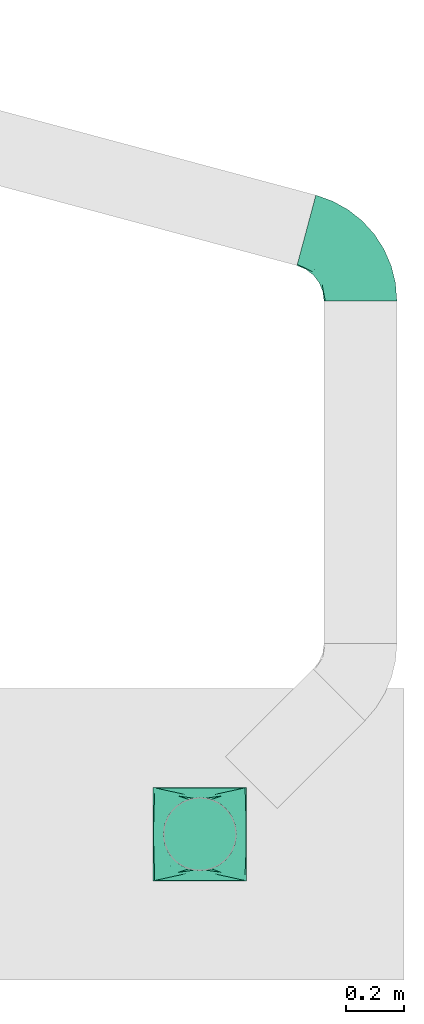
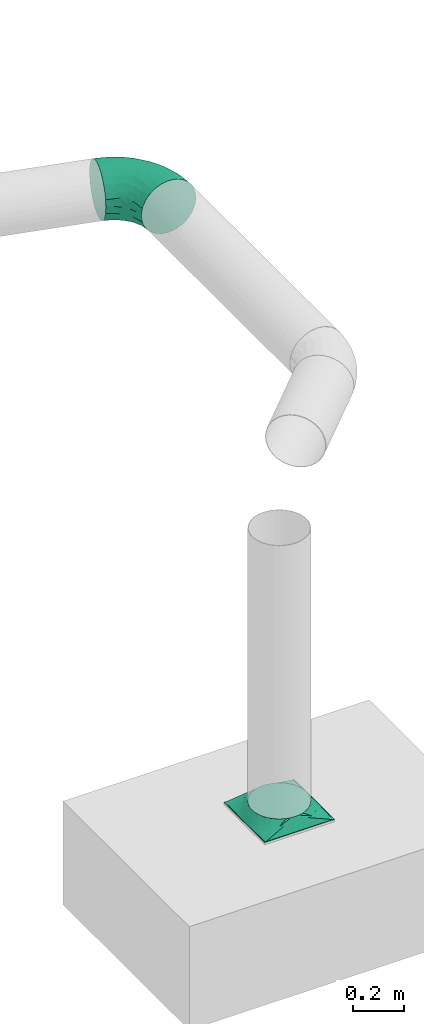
# One storey, part 2 of 3: 2 flow fittings.
"""IFC2X3 building model written with IfcOpenShell, lengths in millimetres."""

import ifcopenshell
import ifcopenshell.guid

model = None  # the IFC model being written
_history = None  # IfcOwnerHistory: only IFC2X3 demands one
_inside = {}  # id of a spatial element -> (the spatial element, [elements in it])
_under = {}  # id of a project, library or spatial element -> (it, [spatial elements below it])
_declared = {}  # id of a project -> (the project, [libraries it declares])
_typed = {}  # id of a type object -> (the type object, [elements of that type])
_made_of = {}  # id of a material, layer set ... -> (it, [elements and type objects made of it])


def new_model(schema):
    """Start an empty IFC model of exactly this schema.

    Asked for "IFC4X3", IfcOpenShell would pick the latest addendum, in which some entities
    have other attributes; the version numbers below select the first issue.
    IFC2X3 requires an IfcOwnerHistory on every rooted entity: one is made here for all.
    """
    global model, _history
    if schema == "IFC4X3":
        model = ifcopenshell.file(schema_version=(4, 3, 0, 0))
    else:
        model = ifcopenshell.file(schema=schema)
    _inside.clear()
    _under.clear()
    _declared.clear()
    _typed.clear()
    _made_of.clear()
    _history = None
    if model.schema == "IFC2X3":
        org = make("IfcOrganization", Name="unknown")
        user = make(
            "IfcPersonAndOrganization",
            ThePerson=make("IfcPerson", FamilyName="unknown"),
            TheOrganization=org,
        )
        app = make(
            "IfcApplication",
            ApplicationDeveloper=org,
            Version="unknown",
            ApplicationFullName="unknown",
            ApplicationIdentifier="unknown",
        )
        _history = make(
            "IfcOwnerHistory",
            OwningUser=user,
            OwningApplication=app,
            ChangeAction="ADDED",
            CreationDate=0,
        )
    return model


def make(cls, **values):
    """One entity of the class cls with the attributes given. An attribute that is None is left unset."""
    return model.create_entity(
        cls, **{name: value for name, value in values.items() if value is not None}
    )


def entity(cls, *values):
    """Any entity or typed value of the class cls, its attributes in the order of the schema. None: left unset."""
    e = model.create_entity(cls)
    for i, value in enumerate(values):
        if value is not None:
            e[i] = value
    return e


def rooted(cls, **values):
    """An entity with a GlobalId (a new one), such as an element, a storey or a relation."""
    return make(cls, GlobalId=ifcopenshell.guid.new(), OwnerHistory=_history, **values)


def si_unit(unit_type, name, prefix=None):
    """IfcSIUnit, for example si_unit("LENGTHUNIT", "METRE", prefix="MILLI")."""
    return make("IfcSIUnit", UnitType=unit_type, Prefix=prefix, Name=name)


def converted_unit(unit_type, name, factor, base, dimensions=None, offset=None):
    """IfcConversionBasedUnit, such as the inch: factor (a typed value) times the base unit."""
    return make(
        "IfcConversionBasedUnit"
        if offset is None
        else "IfcConversionBasedUnitWithOffset",
        ConversionOffset=offset,
        Dimensions=None
        if dimensions is None
        else entity("IfcDimensionalExponents", *dimensions),
        UnitType=unit_type,
        Name=name,
        ConversionFactor=make(
            "IfcMeasureWithUnit", ValueComponent=factor, UnitComponent=base
        ),
    )


def derived_unit(unit_type, elements):
    """IfcDerivedUnit: a product of units, each with its exponent."""
    return make(
        "IfcDerivedUnit",
        Elements=[
            make("IfcDerivedUnitElement", Unit=unit, Exponent=power)
            for unit, power in elements
        ],
        UnitType=unit_type,
    )


def assignment(units):
    """IfcUnitAssignment: the units of a project."""
    return None if units is None else make("IfcUnitAssignment", Units=units)


def point(xyz):
    """IfcCartesianPoint."""
    return None if xyz is None else make("IfcCartesianPoint", Coordinates=xyz)


def direction(xyz):
    """IfcDirection."""
    return None if xyz is None else make("IfcDirection", DirectionRatios=xyz)


def frame(location, z_axis=None, x_axis=None):
    """IfcAxis2Placement3D, a coordinate frame: its origin and axes. An axis left out is left unset."""
    return make(
        "IfcAxis2Placement3D",
        Location=point(location),
        Axis=direction(z_axis),
        RefDirection=direction(x_axis),
    )


def origin_with_axes():
    """The frame at (0, 0, 0) with the z axis (0, 0, 1) and the x axis (1, 0, 0) written out."""
    return frame((0.0, 0.0, 0.0), z_axis=(0.0, 0.0, 1.0), x_axis=(1.0, 0.0, 0.0))


def place(relative_to, where):
    """IfcLocalPlacement: puts the frame where relative to a parent placement (None: the world)."""
    return make(
        "IfcLocalPlacement", PlacementRelTo=relative_to, RelativePlacement=where
    )


def context(
    kind, dimensions, precision=None, world=None, true_north=None, identifier=None
):
    """IfcGeometricRepresentationContext, for example the 3D "Model" context."""
    return make(
        "IfcGeometricRepresentationContext",
        ContextIdentifier=identifier,
        ContextType=kind,
        CoordinateSpaceDimension=dimensions,
        Precision=precision,
        WorldCoordinateSystem=world,
        TrueNorth=true_north,
    )


def subcontext(parent, identifier, kind, view, scale=None):
    """IfcGeometricRepresentationSubContext, for example "Body" below "Model"."""
    return make(
        "IfcGeometricRepresentationSubContext",
        ContextIdentifier=identifier,
        ContextType=kind,
        ParentContext=parent,
        TargetScale=scale,
        TargetView=view,
    )


def project(units=None, contexts=None):
    """IfcProject with its units and contexts."""
    return rooted(
        "IfcProject",
        Name="project",
        RepresentationContexts=contexts,
        UnitsInContext=assignment(units),
    )


def spatial(cls, under=None, at=None, **own):
    """A site, building, storey or space (cls), placed at a placement, below another one or the project."""
    s = rooted(cls, ObjectPlacement=at, **own)
    if under is not None:
        _under.setdefault(under.id(), (under, []))[1].append(s)
    return s


def faces_of(points, faces, orient=None, outer=None):
    """IfcFace entities. A face is a list of loops; a loop is a list of indices into points, from 0.

    orient and outer hold one flag for each loop. By default every Orientation is true, the
    first loop of a face is its IfcFaceOuterBound and the others are IfcFaceBound.
    """
    made = []
    for i, loops in enumerate(faces):
        bounds = []
        for j, loop in enumerate(loops):
            is_outer = j == 0 if outer is None else outer[i][j]
            bounds.append(
                make(
                    "IfcFaceOuterBound" if is_outer else "IfcFaceBound",
                    Bound=make("IfcPolyLoop", Polygon=[points[k] for k in loop]),
                    Orientation=True if orient is None else orient[i][j],
                )
            )
        made.append(make("IfcFace", Bounds=bounds))
    return made


def open_shell(faces, orient=None, outer=None):
    """The faces of one IfcOpenShell. surface_model builds it on its shared points."""
    return ("IfcOpenShell", faces, orient, outer)


def surface_model(cls, points, shells):
    """IfcFaceBasedSurfaceModel or IfcShellBasedSurfaceModel (cls): surfaces that need not close."""
    shared = [point(p) for p in points]
    made = [make(c, CfsFaces=faces_of(shared, fs, o, b)) for c, fs, o, b in shells]
    if cls == "IfcFaceBasedSurfaceModel":
        return make(cls, FbsmFaces=made)
    return make(cls, SbsmBoundary=made)


def shape(context_of_items, identifier, shape_type, items):
    """IfcShapeRepresentation: the items that make up one representation, for example the "Body"."""
    return make(
        "IfcShapeRepresentation",
        ContextOfItems=context_of_items,
        RepresentationIdentifier=identifier,
        RepresentationType=shape_type,
        Items=items,
    )


def source(mapping_origin, context_of_items, identifier, shape_type, items):
    """IfcRepresentationMap: a shape defined once, which mapped items show again and again."""
    return make(
        "IfcRepresentationMap",
        MappingOrigin=mapping_origin,
        MappedRepresentation=shape(context_of_items, identifier, shape_type, items),
    )


def transform(
    local_origin,
    x_axis=None,
    y_axis=None,
    z_axis=None,
    scale=None,
    scale2=None,
    scale3=None,
    uniform=True,
):
    """IfcCartesianTransformationOperator3D, or its non-uniform kind. x_axis, y_axis, z_axis: its Axis1, 2, 3."""
    if uniform:
        return make(
            "IfcCartesianTransformationOperator3D",
            Axis1=direction(x_axis),
            Axis2=direction(y_axis),
            LocalOrigin=point(local_origin),
            Scale=scale,
            Axis3=direction(z_axis),
        )
    return make(
        "IfcCartesianTransformationOperator3DnonUniform",
        Axis1=direction(x_axis),
        Axis2=direction(y_axis),
        LocalOrigin=point(local_origin),
        Scale=scale,
        Axis3=direction(z_axis),
        Scale2=scale2,
        Scale3=scale3,
    )


def mapped(mapping_source, mapping_target):
    """IfcMappedItem: shows the shape of a source again, moved by a transform."""
    return make(
        "IfcMappedItem", MappingSource=mapping_source, MappingTarget=mapping_target
    )


def made_of(thing, what):
    """Note that an element or type object is made of a material, layer set ...; save() writes the relation."""
    if what is not None:
        _made_of.setdefault(what.id(), (what, []))[1].append(thing)
    return thing


def type_object(cls, material=None, **own):
    """A type object (cls), such as IfcWallType, which elements share."""
    return made_of(rooted(cls, **own), material)


def element(
    cls,
    number,
    at=None,
    inside=None,
    cuts=None,
    type_object=None,
    material=None,
    context=None,
    identifier="Body",
    shape_type=None,
    held_by="IfcProductDefinitionShape",
    body=None,
    shapes=None,
    **own,
):
    """One element of the class cls, such as IfcWall. Its Tag is "e" and its number.

    at: its placement. inside: the storey or other place that contains it. cuts: it is an
    opening in that element (IfcRelVoidsElement). A single representation is given by context,
    identifier, shape_type and body (its items); several are given by shapes. held_by: the class
    of the entity that holds the representations. save() writes the other relations.
    """
    e = rooted(cls, Tag="e%d" % number, ObjectPlacement=at, **own)
    if body is not None:
        shapes = [shape(context, identifier, shape_type, body)]
    if shapes is not None:
        e.Representation = make(held_by, Representations=shapes)
    if inside is not None:
        _inside.setdefault(inside.id(), (inside, []))[1].append(e)
    if cuts is not None:
        rooted(
            "IfcRelVoidsElement", RelatingBuildingElement=cuts, RelatedOpeningElement=e
        )
    if type_object is not None:
        _typed.setdefault(type_object.id(), (type_object, []))[1].append(e)
    return made_of(e, material)


def aggregate(whole, parts):
    """IfcRelAggregates: a whole, such as a stair, and the parts it consists of."""
    return rooted("IfcRelAggregates", RelatingObject=whole, RelatedObjects=parts)


def save(model, path):
    """Write the relations noted so far, then the file.

    IfcRelAggregates (storeys below a building ...), IfcRelContainedInSpatialStructure (elements
    in a storey), IfcRelDefinesByType, IfcRelAssociatesMaterial and IfcRelDeclares: one each for
    every whole, place, type object, material and project.
    """
    for whole, parts in _under.values():
        aggregate(whole, parts)
    for where, things in _inside.values():
        rooted(
            "IfcRelContainedInSpatialStructure",
            RelatedElements=things,
            RelatingStructure=where,
        )
    for kind, things in _typed.values():
        rooted("IfcRelDefinesByType", RelatedObjects=things, RelatingType=kind)
    for what, things in _made_of.values():
        rooted("IfcRelAssociatesMaterial", RelatedObjects=things, RelatingMaterial=what)
    for by, libraries in _declared.values():
        rooted("IfcRelDeclares", RelatingContext=by, RelatedDefinitions=libraries)
    model.write(path)


model = new_model("IFC2X3")

# Units and contexts
model_context = context("Model", 3, precision=0.01, world=frame((0.0, 4.29681676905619e-09, 0.0)), true_north=direction((4.01073788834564e-13, 1.0)))
plan_context = context("Plan", 3, precision=0.01, world=frame((0.0, 4.29681676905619e-09, 0.0)), true_north=direction((4.01073788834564e-13, 1.0)))
body_context = subcontext(model_context, "Body", "Model", "MODEL_VIEW")
ifc_project = project(units=[converted_unit("PLANEANGLEUNIT", "DEGREE", entity("IfcPositiveLengthMeasure", 0.0174532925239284), si_unit("PLANEANGLEUNIT", "RADIAN"), dimensions=[0, 0, 0, 0, 0, 0, 0]), si_unit("AREAUNIT", "SQUARE_METRE"), si_unit("LENGTHUNIT", "METRE", prefix="MILLI"), si_unit("MASSUNIT", "GRAM", prefix="KILO"), si_unit("POWERUNIT", "WATT"), si_unit("PRESSUREUNIT", "PASCAL", prefix="KILO"), si_unit("FORCEUNIT", "NEWTON", prefix="KILO"), si_unit("ELECTRICVOLTAGEUNIT", "VOLT"), si_unit("ELECTRICCURRENTUNIT", "AMPERE"), si_unit("THERMODYNAMICTEMPERATUREUNIT", "DEGREE_CELSIUS"), si_unit("TIMEUNIT", "SECOND"), si_unit("VOLUMEUNIT", "CUBIC_METRE"), derived_unit("LINEARVELOCITYUNIT", [(si_unit("LENGTHUNIT", "METRE"), 1), (si_unit("TIMEUNIT", "SECOND"), -1)]), derived_unit("VOLUMETRICFLOWRATEUNIT", [(si_unit("VOLUMEUNIT", "CUBIC_METRE"), 1), (si_unit("TIMEUNIT", "SECOND"), -1)]), derived_unit("THERMALTRANSMITTANCEUNIT", [(si_unit("POWERUNIT", "WATT"), 1), (si_unit("THERMODYNAMICTEMPERATUREUNIT", "KELVIN"), -1), (si_unit("AREAUNIT", "SQUARE_METRE"), -1)]), derived_unit("SOUNDPRESSUREUNIT", [(si_unit("PRESSUREUNIT", "PASCAL"), 1)])], contexts=[model_context, plan_context])

# Site, building, storey
site_placement = place(None, frame((0.0, -4.29681676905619e-09, 0.0), z_axis=(0.0, 0.0, 1.0), x_axis=(1.0, 0.0, 0.0)))
site = spatial("IfcSite", under=ifc_project, at=site_placement, CompositionType="ELEMENT")
building_placement = place(site_placement, frame((0.0, 4.29681676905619e-09, 0.0), z_axis=(0.0, 0.0, 1.0), x_axis=(1.0, 0.0, 0.0)))
building = spatial("IfcBuilding", under=site, at=building_placement, Name="mc-building", CompositionType="ELEMENT")
storey_placement = place(building_placement, frame((0.0, 0.0, 210200.0), z_axis=(0.0, 0.0, 1.0), x_axis=(1.0, 0.0, 0.0)))
storey = spatial("IfcBuildingStorey", under=building, at=storey_placement, Name="Nivå F -0,7m", CompositionType="ELEMENT", Elevation=210200.0)

# Flow fittings
duct_fitting_type_1 = type_object("IfcDuctFittingType", Name="magicirc_elbow_full_radius_001", PredefinedType="BEND")
shared_shape_1 = source(origin_with_axes(), body_context, "Body", "SurfaceModel", [
    surface_model("IfcShellBasedSurfaceModel", [(-191.83175, 62.5, -108.25318), (-191.83175, 32.35238, -120.74073), (-191.83175, 0.0, -125.0), (-191.83175, -120.74073, 32.35238), (-191.83175, 120.74073, -32.35238), (-191.83175, 108.25318, -62.5), (-191.83175, 88.38835, -88.38835), (-191.83175, -108.25318, -62.5), (-191.83175, -62.5, -108.25318), (-191.83175, -88.38835, -88.38835), (-191.83175, -32.35238, -120.74073), (-191.83175, -125.0, 0.0), (-191.83175, -120.74073, -32.35238), (-191.83175, 120.74073, 32.35238), (-191.83175, 108.25318, 62.5), (-191.83175, 88.38835, 88.38835), (-191.83175, 62.5, 108.25318), (-191.83175, 32.35238, 120.74073), (-191.83175, -88.38835, 88.38835), (-191.83175, -62.5, 108.25318), (-191.83175, -108.25318, 62.5), (-191.83175, -32.35238, 120.74073), (-191.83175, 0.0, 125.0), (-191.83175, 125.0, 0.0), (49.64971, 185.29523, -125.0), (18.39971, 193.66865, -120.74073), (-10.72066, 201.47142, -108.25318), (135.0263, 162.41865, -88.38835), (-54.91483, 213.31322, -62.5), (-66.97688, 216.54523, -32.35238), (-35.72688, 208.17183, -88.38835), (154.21424, 157.27726, -62.5), (80.89971, 176.92183, -120.74073), (110.02007, 169.11906, -108.25318), (166.2763, 154.04523, -32.35238), (166.2763, 154.04523, 32.35238), (170.39044, 152.94286, 0.0), (-66.97688, 216.54523, 32.35238), (-10.72066, 201.47142, 108.25318), (-54.91483, 213.31322, 62.5), (-35.72688, 208.17183, 88.38835), (18.39971, 193.66865, 120.74073), (154.21424, 157.27726, 62.5), (110.02007, 169.11906, 108.25318), (135.0263, 162.41865, 88.38835), (49.64971, 185.29523, 125.0), (80.89971, 176.92183, 120.74073), (-71.09102, 217.64762, 0.0), (81.62908, 109.34463, 110.9827), (-130.74594, -119.99125, 0.0), (81.86728, -6.34711, 0.0), (58.4126, -23.41433, 32.70799), (36.45379, -47.5075, 0.0), (-132.92328, -114.12885, 38.68527), (-145.97586, 99.99668, 83.36167), (-158.48315, 73.90616, 103.03266), (-49.15567, -92.33877, 31.82641), (8.96131, -63.86611, 24.38359), (-42.04341, -77.85658, 58.52436), (80.80596, 16.46227, 61.21257), (100.57391, 26.93919, 41.88619), (-143.476, -100.40934, 69.75003), (-128.1365, -77.86483, 92.57374), (-141.82382, -51.1731, 112.10389), (-148.12608, 44.79456, 118.36222), (-134.38741, 13.05132, 124.84677), (-58.80804, 166.88289, 83.36167), (-90.5012, -104.96809, 37.79895), (-71.29195, -105.0988, 0.0), (35.8772, 80.65373, 120.3499), (35.36531, 48.40769, 112.85839), (65.00076, 57.28254, 102.81191), (-146.62026, -20.10475, 122.7012), (39.07523, 22.29459, 100.52428), (-9.96776, -19.10824, 100.15116), (21.24305, -17.08337, 84.98636), (-43.46979, -38.90281, 100.17146), (-78.92672, -41.69481, 108.08911), (-58.25186, -61.11344, 88.19814), (-70.86446, 185.48468, 53.64405), (-91.4591, 165.84742, 38.20673), (21.25974, 130.48906, 124.87075), (-45.6897, 134.99732, 107.35252), (-78.42941, 129.31285, 92.2102), (-160.82338, 116.45678, 53.64405), (-136.52495, 131.26717, 38.20673), (119.96936, 41.66116, 0.0), (-159.47936, 129.25927, 0.0), (-85.32963, 158.06257, 60.64241), (-110.04676, 143.41573, 47.42654), (-103.2298, 134.53169, 68.65911), (-74.50619, 97.09835, 111.10784), (-129.33175, 141.74683, 0.0), (-12.2439, -45.41005, 80.39671), (-83.57857, 187.5, 0.0), (-15.05797, -80.72047, 0.0), (84.15803, 49.84442, 85.77244), (104.2391, 51.3262, 65.35826), (112.20557, 115.42569, 93.91786), (126.35804, 65.31052, 41.51067), (149.74219, 95.23487, 0.0), (139.13416, 129.95245, 72.16449), (10.1215, 53.42188, 120.87953), (147.29234, 105.90723, 39.88217), (-53.1202, 69.22758, 123.02341), (-13.10741, 62.34057, 124.6647), (-16.56432, 105.17558, 122.93271), (56.38662, 132.84128, 122.57975), (-89.0101, -93.44486, 62.05976), (-103.4434, 161.61165, 0.0), (-97.40457, 42.08588, 123.11124), (-52.35052, 24.39458, 124.06736), (-114.44258, 149.14448, 22.95396), (13.04444, 92.45353, 124.71423), (-30.36942, 172.21129, 103.03266), (-5.09638, 154.12615, 118.3965), (-118.319, 57.33855, 117.07875), (-92.71511, 14.99721, 124.89795), (-118.57203, 79.07274, 107.35252), (-110.37705, 111.1911, 87.71501), (-130.37386, 117.39993, 69.57152), (126.4313, 90.98036, 66.60202), (48.24112, 7.58836, 85.51405), (-45.10784, -10.54749, 114.98718), (-24.97287, 129.52668, 116.92649), (-94.53576, -15.25957, 120.69016), (-4.70995, 21.99803, 116.63573), (1.90515, -56.28923, 54.65445), (50.90766, -8.77992, 68.118), (-107.67173, 35.15559, -123.50732), (-148.47148, 44.78381, -118.34143), (-115.97509, 57.75484, -117.24973), (6.90994, -61.88393, -35.59763), (-136.34042, 12.94202, -124.82912), (-99.8059, -16.19803, -120.92515), (-149.54469, -20.08652, -122.79463), (-31.67872, 167.93692, -103.53028), (-50.99851, 68.38264, -123.3609), (-83.12782, 20.19661, -124.92886), (-81.96297, 57.05963, -121.83044), (-95.32499, -105.19989, -41.02285), (-139.81947, -114.80992, -39.7866), (-136.52495, 131.26717, -38.20673), (-8.0386, 145.17975, -118.95001), (-110.04676, 143.41573, -47.42653), (-114.44258, 149.14448, -22.95396), (-91.4591, 165.84742, -38.20673), (-165.98365, 73.87749, -102.18767), (-150.00577, 99.40622, -82.72989), (-131.56018, 76.45759, -105.97514), (-33.26858, 95.92343, -121.61148), (7.45923, 98.08623, -124.99861), (59.58776, -25.64135, -21.81529), (-160.22174, -100.76625, -71.99083), (147.08581, 105.34025, -39.7866), (-49.6872, 127.93239, -108.17502), (-90.5827, 85.42361, -111.3636), (-80.17431, 133.12966, -88.41226), (-141.58931, -78.54069, -94.03085), (-131.90565, -50.84575, -111.37211), (-51.80109, -90.38078, -41.07307), (-105.23072, 106.8481, -93.7398), (101.22746, 25.43612, -37.61741), (22.43381, -42.15961, -54.88123), (54.97507, -18.01209, -50.50963), (-74.962, -41.56095, -107.30637), (-85.32963, 158.06257, -60.64241), (-64.87876, -67.05036, -85.13831), (-102.59743, -81.59163, -83.08765), (-110.03007, -65.57205, -99.24068), (55.86699, 131.01804, -122.5165), (-70.86446, 185.48468, -53.64405), (-160.82338, 116.45678, -53.64405), (-59.9985, 164.27373, -83.80503), (90.75992, 142.06842, -113.43972), (111.62582, 113.53503, -93.70574), (25.97871, 145.68153, -124.71087), (138.80116, 128.68209, -71.99084), (-130.59179, 123.3317, -60.64241), (107.7534, 50.39321, -59.38681), (125.60083, 88.89486, -66.28928), (126.21392, 64.67309, -40.95008), (-32.82924, 53.24781, -124.96474), (2.2905, -40.80185, -75.47567), (17.02514, -3.52079, -97.29909), (40.77748, -9.99161, -76.49753), (79.07318, 102.13331, -110.39577), (90.72887, 80.76047, -96.57071), (64.36245, 58.78446, -103.77343), (51.0766, 20.09293, -92.15181), (81.55753, 45.31416, -85.13831), (81.75616, 18.44351, -62.20079), (36.42708, 71.86455, -118.58104), (-74.28813, -86.73188, -65.18506), (-27.61148, -69.16243, -61.30729), (30.34447, 32.97559, -109.33749), (10.73464, 44.04279, -118.79968), (-118.37372, -98.3134, -66.28928), (-30.76754, -39.12313, -95.2399), (-103.2298, 134.53169, -68.65911), (-39.23612, -17.0019, -110.9737), (-51.26965, 7.47004, -121.26742), (-10.96374, 14.28822, -115.78349), (-18.80055, 35.41549, -122.33873)], [open_shell([[[0, 1, 2]], [[0, 2, 3]], [[4, 5, 6]], [[6, 0, 3]], [[3, 2, 7]], [[8, 9, 10]], [[7, 10, 9]], [[11, 3, 12]], [[2, 10, 7]], [[3, 7, 12]], [[6, 13, 4]], [[13, 6, 3]], [[14, 13, 15]], [[3, 16, 13]], [[15, 13, 16]], [[16, 3, 17]], [[18, 19, 20]], [[3, 20, 19]], [[21, 22, 19]], [[17, 3, 19]], [[19, 22, 17]], [[23, 4, 13]], [[24, 25, 26]], [[27, 24, 26]], [[28, 29, 26]], [[28, 26, 30]], [[31, 26, 29]], [[32, 27, 33]], [[32, 24, 27]], [[34, 35, 36]], [[27, 26, 31]], [[34, 31, 35]], [[31, 29, 37]], [[35, 31, 37]], [[38, 37, 39]], [[35, 37, 38]], [[38, 39, 40]], [[35, 38, 41]], [[42, 43, 44]], [[43, 42, 35]], [[43, 45, 46]], [[43, 35, 41]], [[41, 45, 43]], [[37, 29, 47]], [[48, 43, 46]], [[3, 11, 49]], [[50, 51, 52]], [[53, 20, 3]], [[49, 53, 3]], [[54, 15, 55]], [[56, 57, 58]], [[59, 51, 60]], [[61, 62, 18]], [[61, 18, 20]], [[19, 62, 63]], [[64, 17, 65]], [[66, 40, 39]], [[56, 67, 68]], [[69, 70, 71]], [[22, 72, 65]], [[73, 74, 75]], [[16, 17, 64]], [[76, 77, 78]], [[79, 37, 80]], [[72, 22, 21]], [[81, 45, 41]], [[82, 66, 83]], [[13, 84, 85]], [[86, 60, 50]], [[87, 23, 13]], [[88, 89, 90]], [[83, 91, 82]], [[87, 85, 92]], [[74, 76, 93]], [[55, 15, 16]], [[37, 94, 80]], [[57, 95, 52]], [[96, 97, 98]], [[99, 86, 100]], [[95, 56, 68]], [[42, 44, 101]], [[102, 70, 69]], [[42, 103, 35]], [[43, 98, 44]], [[104, 105, 106]], [[36, 35, 100]], [[22, 65, 17]], [[107, 46, 45]], [[43, 48, 98]], [[84, 13, 14]], [[15, 54, 14]], [[103, 42, 101]], [[66, 79, 88]], [[107, 48, 46]], [[78, 62, 108]], [[109, 80, 94]], [[104, 110, 111]], [[109, 92, 112]], [[47, 94, 37]], [[87, 13, 85]], [[106, 105, 113]], [[89, 112, 85]], [[99, 100, 103]], [[38, 40, 114]], [[66, 82, 114]], [[81, 115, 106]], [[110, 116, 64]], [[117, 110, 65]], [[67, 49, 68]], [[41, 115, 81]], [[48, 107, 69]], [[19, 63, 21]], [[53, 67, 61]], [[62, 19, 18]], [[79, 39, 37]], [[41, 38, 115]], [[66, 88, 83]], [[118, 91, 119]], [[120, 85, 84]], [[98, 97, 121]], [[122, 73, 75]], [[103, 121, 99]], [[100, 35, 103]], [[58, 108, 56]], [[123, 77, 76]], [[45, 81, 107]], [[107, 81, 113]], [[96, 98, 48]], [[101, 98, 121]], [[114, 115, 38]], [[91, 106, 124]], [[77, 62, 78]], [[72, 63, 125]], [[110, 64, 65]], [[64, 116, 55]], [[110, 117, 111]], [[104, 91, 116]], [[74, 126, 123]], [[111, 126, 105]], [[124, 106, 115]], [[104, 111, 105]], [[125, 123, 111]], [[105, 102, 113]], [[73, 126, 74]], [[102, 105, 126]], [[74, 93, 75]], [[71, 70, 73]], [[127, 57, 51]], [[97, 59, 60]], [[53, 61, 20]], [[62, 61, 108]], [[63, 72, 21]], [[65, 72, 125]], [[60, 51, 50]], [[127, 51, 128]], [[56, 95, 57]], [[67, 56, 108]], [[66, 114, 40]], [[114, 82, 124]], [[64, 55, 16]], [[54, 55, 118]], [[88, 79, 80]], [[66, 39, 79]], [[14, 54, 84]], [[120, 54, 119]], [[119, 83, 90]], [[83, 119, 91]], [[91, 118, 116]], [[106, 91, 104]], [[120, 119, 90]], [[118, 119, 54]], [[120, 90, 89]], [[84, 54, 120]], [[111, 123, 126]], [[123, 125, 77]], [[125, 63, 77]], [[62, 77, 63]], [[89, 88, 80]], [[88, 90, 83]], [[97, 99, 121]], [[86, 99, 60]], [[93, 58, 127]], [[78, 108, 58]], [[80, 109, 112]], [[120, 89, 85]], [[85, 112, 92]], [[80, 112, 89]], [[51, 57, 52]], [[57, 127, 58]], [[98, 101, 44]], [[103, 101, 121]], [[96, 122, 59]], [[99, 97, 60]], [[96, 59, 97]], [[51, 59, 128]], [[58, 93, 78]], [[75, 127, 128]], [[127, 75, 93]], [[75, 128, 122]], [[59, 122, 128]], [[71, 122, 96]], [[116, 110, 104]], [[55, 116, 118]], [[65, 125, 117]], [[125, 111, 117]], [[114, 124, 115]], [[91, 124, 82]], [[107, 113, 69]], [[106, 113, 81]], [[70, 126, 73]], [[113, 102, 69]], [[126, 70, 102]], [[122, 71, 73]], [[96, 48, 71]], [[69, 71, 48]], [[61, 67, 108]], [[67, 53, 49]], [[93, 76, 78]], [[123, 76, 74]], [[129, 130, 131]], [[52, 95, 132]], [[133, 134, 135]], [[136, 30, 26]], [[130, 133, 1]], [[137, 138, 139]], [[23, 87, 4]], [[140, 49, 141]], [[92, 142, 87]], [[26, 25, 143]], [[144, 145, 146]], [[147, 148, 149]], [[150, 143, 151]], [[152, 50, 52]], [[4, 87, 142]], [[138, 134, 133]], [[141, 7, 153]], [[31, 34, 154]], [[49, 11, 12]], [[155, 156, 157]], [[158, 8, 159]], [[132, 95, 160]], [[158, 9, 8]], [[156, 149, 161]], [[50, 152, 162]], [[141, 12, 7]], [[153, 7, 9]], [[152, 163, 164]], [[8, 10, 159]], [[135, 159, 10]], [[148, 6, 5]], [[149, 148, 161]], [[145, 92, 109]], [[165, 159, 134]], [[144, 146, 166]], [[167, 168, 169]], [[47, 29, 94]], [[140, 68, 49]], [[32, 170, 24]], [[146, 29, 171]], [[4, 142, 172]], [[173, 30, 136]], [[174, 170, 32]], [[27, 175, 33]], [[147, 0, 6]], [[24, 176, 25]], [[27, 31, 177]], [[155, 136, 143]], [[148, 172, 178]], [[32, 33, 174]], [[50, 162, 86]], [[179, 180, 181]], [[182, 150, 151]], [[183, 184, 185]], [[181, 86, 162]], [[30, 173, 28]], [[174, 175, 186]], [[10, 2, 135]], [[187, 188, 186]], [[2, 1, 133]], [[36, 100, 34]], [[68, 160, 95]], [[176, 143, 25]], [[154, 180, 177]], [[189, 190, 191]], [[192, 151, 170]], [[171, 29, 28]], [[94, 29, 146]], [[1, 0, 130]], [[94, 146, 109]], [[131, 139, 129]], [[171, 166, 146]], [[167, 193, 168]], [[193, 160, 140]], [[132, 160, 194]], [[172, 5, 4]], [[148, 178, 161]], [[177, 175, 27]], [[187, 180, 190]], [[192, 170, 186]], [[176, 170, 151]], [[188, 190, 189]], [[192, 195, 196]], [[34, 100, 154]], [[181, 100, 86]], [[141, 197, 140]], [[49, 12, 141]], [[191, 162, 164]], [[154, 181, 180]], [[147, 130, 0]], [[131, 130, 149]], [[169, 168, 158]], [[153, 158, 197]], [[160, 193, 194]], [[132, 163, 152]], [[198, 167, 165]], [[183, 198, 184]], [[157, 161, 199]], [[156, 139, 131]], [[170, 176, 24]], [[143, 176, 151]], [[143, 136, 26]], [[173, 136, 155]], [[133, 135, 2]], [[159, 135, 134]], [[137, 156, 150]], [[200, 201, 202]], [[196, 151, 192]], [[182, 203, 201]], [[137, 150, 182]], [[143, 150, 155]], [[134, 138, 201]], [[167, 198, 183]], [[165, 200, 198]], [[198, 200, 184]], [[202, 196, 195]], [[185, 164, 163]], [[134, 200, 165]], [[184, 200, 202]], [[134, 201, 200]], [[182, 201, 138]], [[157, 156, 161]], [[150, 156, 155]], [[178, 172, 142]], [[148, 5, 172]], [[28, 173, 171]], [[173, 157, 166]], [[144, 178, 142]], [[178, 199, 161]], [[173, 166, 171]], [[144, 166, 199]], [[189, 185, 184]], [[185, 189, 191]], [[184, 195, 189]], [[175, 187, 186]], [[202, 195, 184]], [[188, 192, 186]], [[189, 195, 188]], [[192, 188, 195]], [[180, 187, 175]], [[190, 188, 187]], [[181, 154, 100]], [[179, 162, 191]], [[202, 203, 196]], [[196, 203, 151]], [[201, 203, 202]], [[151, 203, 182]], [[193, 140, 197]], [[68, 140, 160]], [[166, 157, 199]], [[155, 157, 173]], [[178, 144, 199]], [[145, 142, 92]], [[146, 145, 109]], [[142, 145, 144]], [[148, 147, 6]], [[130, 147, 149]], [[175, 174, 33]], [[170, 174, 186]], [[154, 177, 31]], [[175, 177, 180]], [[158, 153, 9]], [[141, 153, 197]], [[132, 152, 52]], [[162, 152, 164]], [[168, 197, 158]], [[194, 167, 183]], [[167, 194, 193]], [[194, 183, 163]], [[197, 168, 193]], [[169, 158, 159]], [[159, 165, 169]], [[167, 169, 165]], [[185, 191, 164]], [[179, 190, 180]], [[162, 179, 181]], [[190, 179, 191]], [[156, 131, 149]], [[139, 138, 129]], [[138, 133, 129]], [[130, 129, 133]], [[194, 163, 132]], [[185, 163, 183]], [[138, 137, 182]], [[156, 137, 139]]])]),
])
flow_fitting_1_placement = place(storey_placement, frame((727601.95745, 440836.55206, 4930.0), z_axis=(0.0, 0.0, 1.0), x_axis=(0.0, 1.0, 0.0)))
element("IfcFlowFitting", 1, at=flow_fitting_1_placement, inside=storey, type_object=duct_fitting_type_1, Name="magicirc_elbow_full_radius_001", context=body_context, shape_type="MappedRepresentation", body=[
    mapped(shared_shape_1, transform((0.0, 0.0, 0.0), scale=1.0)),
])
duct_fitting_type_2 = type_object("IfcDuctFittingType", Name="Lindab LORU", PredefinedType="TRANSITION")
shared_shape_2 = source(origin_with_axes(), body_context, "Body", "SurfaceModel", [
    surface_model("IfcShellBasedSurfaceModel", [(48.0, 120.74073, 32.35238), (48.0, 0.0, 125.0), (48.0, 32.35238, 120.74073), (48.0, 88.38835, 88.38835), (48.0, 62.5, 108.25318), (48.0, 108.25318, 62.5), (48.0, -120.74073, -32.35238), (48.0, -88.38835, 88.38835), (48.0, -32.35238, 120.74073), (48.0, -62.5, 108.25318), (48.0, -120.74073, 32.35238), (48.0, -108.25318, 62.5), (48.0, -125.0, 0.0), (48.0, 120.74073, -32.35238), (48.0, 88.38835, -88.38835), (48.0, 108.25318, -62.5), (48.0, 62.5, -108.25318), (48.0, 32.35238, -120.74073), (48.0, 0.0, -125.0), (48.0, -88.38835, -88.38835), (48.0, -108.25318, -62.5), (48.0, -62.5, -108.25318), (48.0, -32.35238, -120.74073), (48.0, 125.0, 0.0), (50.0, 32.35238, -120.74073), (50.0, 62.5, -108.25318), (50.0, 88.38835, -88.38835), (50.0, -62.5, -108.25318), (50.0, 120.74073, -32.35238), (50.0, 108.25318, -62.5), (50.0, 125.0, 0.0), (50.0, 0.0, -125.0), (50.0, -32.35238, -120.74073), (50.0, -88.38835, -88.38835), (50.0, -120.74073, -32.35238), (50.0, -108.25318, -62.5), (50.0, 120.74073, 32.35238), (50.0, 108.25318, 62.5), (50.0, 88.38835, 88.38835), (50.0, 62.5, 108.25318), (50.0, 32.35238, 120.74073), (50.0, 0.0, 125.0), (50.0, -88.38835, 88.38835), (50.0, -120.74073, 32.35238), (50.0, -108.25318, 62.5), (50.0, -125.0, 0.0), (50.0, -32.35238, 120.74073), (50.0, -62.5, 108.25318), (2.0, 160.0, 160.0), (2.0, -160.0, 160.0), (2.0, -160.0, -160.0), (2.0, 160.0, -160.0), (0.0, 160.0, -160.0), (0.0, -160.0, -160.0), (0.0, -160.0, 160.0), (0.0, 160.0, 160.0), (50.0, -38.62713, 118.88206), (50.0, -73.47316, 101.12712), (50.0, -101.12712, 73.47316), (50.0, -118.88206, 38.62713), (50.0, 38.62713, 118.88206), (50.0, 73.47316, 101.12712), (50.0, 101.12712, 73.47316), (50.0, 118.88206, 38.62713), (50.0, 118.88206, -38.62713), (50.0, -73.47316, -101.12712), (50.0, -118.88206, -38.62713), (50.0, -101.12712, -73.47316), (50.0, 101.12712, -73.47316), (50.0, -38.62713, -118.88206), (50.0, 73.47316, -101.12712), (50.0, 38.62713, -118.88206), (26.12561, -57.42113, -133.17806), (12.86779, -49.47095, -147.59472), (24.49525, -38.90649, -139.19358), (27.64849, -108.86951, -105.08379), (50.0, -87.30014, -87.30014), (13.02378, 104.53993, -135.37586), (27.64849, 108.86951, -105.08379), (25.27173, 91.62003, -120.13253), (30.43959, -131.14458, -75.0055), (50.0, -122.62289, -15.00844), (30.92828, -138.3502, -61.0295), (12.37287, -86.93227, -141.16855), (25.27173, -91.62003, -120.13253), (13.02378, -104.53993, -135.37586), (12.31443, -139.51523, -125.19561), (15.46414, -149.1751, -110.51475), (23.77329, 75.20528, -129.56868), (12.37287, 86.93227, -141.16855), (23.77271, -75.20695, -129.56875), (13.36222, -122.12439, -128.83152), (0.0, -120.0, -160.0), (0.0, 100.0, -160.0), (50.0, -110.0046, -56.05014), (38.22344, 119.67282, -69.46139), (30.43959, 131.14458, -75.0055), (50.0, 87.30014, -87.30014), (26.59148, -0.05965, -141.38596), (50.0, -19.31356, -121.94103), (37.23663, -29.88322, -130.97023), (0.0, 0.0, -160.0), (13.86438, 7.63483, -150.20875), (0.0, -20.0, -160.0), (36.87372, -80.66774, -110.90801), (25.0, -19.58101, -141.56594), (0.0, 140.0, -160.0), (24.62886, 125.54731, -98.49772), (50.0, -56.05014, -110.0046), (26.14087, 57.42054, -133.16343), (50.0, 56.05014, -110.0046), (37.2622, 46.1398, -126.72943), (0.0, 40.0, -160.0), (12.87553, 49.47069, -147.58748), (12.64862, 28.65251, -150.02605), (50.0, 19.31356, -121.94103), (24.62886, -125.54731, -98.49772), (38.22344, -119.67282, -69.46139), (50.0, 122.62289, -15.00844), (0.0, -100.0, -160.0), (50.0, 110.0046, -56.05014), (15.46414, 149.1751, -110.51475), (0.0, -80.0, -160.0), (0.0, -60.0, -160.0), (26.11485, 19.57936, -140.75269), (0.0, -40.0, -160.0), (0.0, 60.0, -160.0), (24.52375, 38.84807, -139.18128), (40.46414, -131.6751, -30.51475), (0.0, -140.0, -160.0), (36.87374, 80.66778, -110.90797), (0.0, 120.0, -160.0), (30.92828, 138.3502, -61.0295), (0.0, 80.0, -160.0), (0.0, 20.0, -160.0), (40.46414, 131.6751, -30.51475), (26.12561, 57.42113, 133.17806), (12.86779, 49.47095, 147.59472), (24.49525, 38.90649, 139.19358), (27.64849, 108.86951, 105.08379), (50.0, 87.30014, 87.30014), (13.02378, -104.53993, 135.37586), (27.64849, -108.86951, 105.08379), (25.27173, -91.62003, 120.13253), (30.43959, 131.14458, 75.0055), (50.0, 122.62289, 15.00844), (30.92828, 138.3502, 61.0295), (12.37287, 86.93227, 141.16855), (25.27173, 91.62003, 120.13253), (13.02378, 104.53993, 135.37586), (15.46414, 149.1751, 110.51475), (12.31443, 139.51523, 125.19561), (23.77329, -75.20528, 129.56868), (12.37287, -86.93227, 141.16855), (23.77271, 75.20695, 129.56875), (24.62886, 125.54731, 98.49772), (0.0, -100.0, 160.0), (50.0, 110.0046, 56.05014), (38.22344, -119.67282, 69.46139), (30.43959, -131.14458, 75.0055), (50.0, -87.30014, 87.30014), (26.59148, 0.05965, 141.38596), (50.0, 19.31356, 121.94103), (37.23663, 29.88322, 130.97023), (0.0, 0.0, 160.0), (13.86438, -7.63483, 150.20875), (0.0, 20.0, 160.0), (36.87372, 80.66774, 110.90801), (25.0, 19.58101, 141.56594), (0.0, -140.0, 160.0), (24.62886, -125.54731, 98.49772), (50.0, 56.05014, 110.0046), (26.14087, -57.42054, 133.16343), (50.0, -56.05014, 110.0046), (37.2622, -46.1398, 126.72943), (0.0, -40.0, 160.0), (12.87553, -49.47069, 147.58748), (12.64862, -28.65251, 150.02605), (50.0, -19.31356, 121.94103), (38.22344, 119.67282, 69.46139), (13.36222, 122.12439, 128.83152), (50.0, -122.62289, 15.00844), (0.0, 120.0, 160.0), (0.0, 100.0, 160.0), (50.0, -110.0046, 56.05014), (15.46414, -149.1751, 110.51475), (0.0, 80.0, 160.0), (0.0, 60.0, 160.0), (26.11485, -19.57936, 140.75269), (0.0, 40.0, 160.0), (0.0, -60.0, 160.0), (24.52375, -38.84807, 139.18128), (40.46414, 131.6751, 30.51475), (0.0, 140.0, 160.0), (36.87374, -80.66778, 110.90797), (0.0, -120.0, 160.0), (30.92828, -138.3502, 61.0295), (0.0, -80.0, 160.0), (0.0, -20.0, 160.0), (40.46414, -131.6751, 30.51475)], [open_shell([[[0, 1, 2]], [[3, 2, 4]], [[3, 5, 0]], [[3, 0, 2]], [[6, 7, 1]], [[8, 7, 9]], [[8, 1, 7]], [[7, 10, 11]], [[7, 6, 10]], [[10, 6, 12]], [[13, 1, 0]], [[6, 1, 13]], [[14, 13, 15]], [[14, 16, 17]], [[6, 13, 14]], [[18, 14, 17]], [[6, 19, 20]], [[19, 6, 21]], [[21, 18, 22]], [[21, 6, 14]], [[14, 18, 21]], [[13, 0, 23]], [[24, 25, 26]], [[27, 24, 26]], [[27, 26, 28]], [[28, 26, 29]], [[27, 28, 30]], [[31, 27, 32]], [[31, 24, 27]], [[33, 34, 35]], [[34, 33, 27]], [[30, 34, 27]], [[30, 36, 34]], [[36, 37, 38]], [[36, 38, 39]], [[40, 41, 36]], [[40, 36, 39]], [[41, 42, 34]], [[43, 42, 44]], [[45, 34, 43]], [[42, 46, 47]], [[43, 34, 42]], [[46, 42, 41]], [[36, 41, 34]], [[6, 34, 12]], [[20, 35, 6]], [[27, 19, 21]], [[20, 19, 33]], [[32, 21, 22]], [[6, 35, 34]], [[34, 45, 12]], [[32, 27, 21]], [[33, 19, 27]], [[33, 35, 20]], [[31, 32, 22]], [[22, 18, 31]], [[17, 24, 18]], [[16, 25, 17]], [[29, 14, 15]], [[16, 14, 26]], [[28, 15, 13]], [[16, 26, 25]], [[25, 24, 17]], [[30, 28, 13]], [[29, 15, 28]], [[29, 26, 14]], [[23, 30, 13]], [[18, 24, 31]], [[0, 36, 23]], [[5, 37, 0]], [[39, 3, 4]], [[5, 3, 38]], [[40, 4, 2]], [[0, 37, 36]], [[36, 30, 23]], [[40, 39, 4]], [[38, 3, 39]], [[38, 37, 5]], [[41, 40, 2]], [[2, 1, 41]], [[46, 1, 8]], [[9, 47, 8]], [[44, 11, 10]], [[43, 10, 12]], [[9, 42, 47]], [[47, 46, 8]], [[7, 44, 42]], [[7, 11, 44]], [[44, 10, 43]], [[12, 45, 43]], [[7, 42, 9]], [[1, 46, 41]], [[48, 49, 50]], [[50, 51, 48]], [[52, 53, 54]], [[54, 55, 52]], [[50, 49, 54]], [[54, 53, 50]], [[51, 50, 53]], [[53, 52, 51]], [[48, 51, 52]], [[52, 55, 48]], [[49, 48, 55]], [[55, 54, 49]], [[41, 56, 57]], [[57, 58, 59]], [[57, 59, 41]], [[41, 59, 60]], [[61, 60, 62]], [[62, 30, 63]], [[64, 30, 62]], [[64, 62, 60]], [[60, 59, 65]], [[66, 65, 59]], [[60, 65, 64]], [[65, 66, 67]], [[68, 65, 69]], [[64, 65, 68]], [[70, 31, 71]], [[31, 70, 68]], [[69, 31, 68]], [[66, 59, 45]], [[54, 55, 53]], [[52, 53, 55]], [[54, 53, 45]], [[72, 73, 74]], [[67, 75, 76]], [[77, 78, 79]], [[80, 81, 82]], [[83, 84, 85]], [[86, 87, 53]], [[88, 89, 79]], [[90, 84, 83]], [[91, 92, 85]], [[93, 77, 89]], [[75, 67, 94]], [[95, 96, 64]], [[78, 97, 79]], [[98, 99, 100]], [[101, 102, 103]], [[84, 90, 104]], [[105, 102, 98]], [[77, 106, 107]], [[108, 104, 72]], [[109, 110, 111]], [[112, 113, 114]], [[31, 98, 115]], [[104, 108, 65]], [[116, 117, 80]], [[116, 91, 75]], [[64, 96, 118]], [[92, 119, 85]], [[95, 64, 120]], [[121, 107, 52]], [[122, 123, 90]], [[115, 98, 124]], [[103, 74, 125]], [[88, 113, 126]], [[114, 113, 127]], [[77, 79, 89]], [[104, 76, 84]], [[122, 83, 119]], [[75, 85, 84]], [[86, 91, 116]], [[76, 75, 84]], [[117, 75, 94]], [[87, 86, 80]], [[66, 117, 94]], [[75, 117, 116]], [[81, 45, 128]], [[86, 129, 91]], [[80, 86, 116]], [[111, 115, 124]], [[75, 91, 85]], [[66, 80, 117]], [[87, 80, 82]], [[119, 83, 85]], [[73, 90, 123]], [[109, 88, 130]], [[125, 73, 123]], [[73, 72, 90]], [[83, 122, 90]], [[100, 108, 72]], [[72, 104, 90]], [[76, 104, 65]], [[74, 73, 125]], [[100, 74, 105]], [[129, 86, 53]], [[69, 108, 100]], [[100, 105, 98]], [[99, 69, 100]], [[129, 92, 91]], [[74, 103, 105]], [[97, 70, 130]], [[93, 131, 77]], [[77, 131, 106]], [[95, 78, 107]], [[97, 78, 68]], [[78, 95, 120]], [[68, 78, 120]], [[95, 107, 96]], [[96, 121, 132]], [[121, 96, 107]], [[132, 118, 96]], [[113, 112, 126]], [[93, 89, 133]], [[126, 133, 88]], [[89, 88, 133]], [[127, 113, 109]], [[102, 114, 124]], [[102, 134, 114]], [[98, 102, 124]], [[103, 102, 105]], [[130, 88, 79]], [[113, 88, 109]], [[97, 130, 79]], [[134, 102, 101]], [[111, 127, 109]], [[114, 127, 124]], [[70, 110, 130]], [[71, 115, 111]], [[109, 130, 110]], [[110, 71, 111]], [[134, 112, 114]], [[98, 31, 99]], [[81, 80, 66]], [[81, 128, 82]], [[135, 30, 118]], [[118, 132, 135]], [[107, 78, 77]], [[106, 52, 107]], [[72, 74, 100]], [[124, 127, 111]], [[52, 55, 30]], [[136, 137, 138]], [[62, 139, 140]], [[141, 142, 143]], [[144, 145, 146]], [[147, 148, 149]], [[150, 55, 151]], [[152, 153, 143]], [[154, 148, 147]], [[155, 144, 151]], [[156, 141, 153]], [[139, 62, 157]], [[158, 159, 59]], [[142, 160, 143]], [[161, 162, 163]], [[164, 165, 166]], [[148, 154, 167]], [[168, 165, 161]], [[141, 169, 170]], [[171, 167, 136]], [[172, 173, 174]], [[175, 176, 177]], [[41, 161, 178]], [[167, 171, 61]], [[155, 179, 144]], [[155, 180, 139]], [[59, 159, 181]], [[182, 183, 149]], [[158, 59, 184]], [[185, 170, 54]], [[186, 187, 154]], [[178, 161, 188]], [[166, 138, 189]], [[152, 176, 190]], [[177, 176, 191]], [[141, 143, 153]], [[167, 140, 148]], [[186, 147, 183]], [[139, 149, 148]], [[151, 180, 155]], [[140, 139, 148]], [[179, 139, 157]], [[150, 151, 144]], [[63, 179, 157]], [[139, 179, 155]], [[145, 30, 192]], [[151, 193, 180]], [[180, 182, 149]], [[174, 178, 188]], [[139, 180, 149]], [[63, 144, 179]], [[150, 144, 146]], [[183, 147, 149]], [[137, 154, 187]], [[172, 152, 194]], [[189, 137, 187]], [[137, 136, 154]], [[147, 186, 154]], [[163, 171, 136]], [[136, 167, 154]], [[140, 167, 61]], [[138, 137, 189]], [[163, 138, 168]], [[193, 151, 55]], [[60, 171, 163]], [[163, 168, 161]], [[162, 60, 163]], [[193, 182, 180]], [[138, 166, 168]], [[160, 57, 194]], [[156, 195, 141]], [[141, 195, 169]], [[158, 142, 170]], [[160, 142, 58]], [[142, 158, 184]], [[58, 142, 184]], [[158, 170, 159]], [[159, 185, 196]], [[185, 159, 170]], [[196, 181, 159]], [[176, 175, 190]], [[156, 153, 197]], [[190, 197, 152]], [[153, 152, 197]], [[191, 176, 172]], [[165, 177, 188]], [[165, 198, 177]], [[161, 165, 188]], [[166, 165, 168]], [[194, 152, 143]], [[176, 152, 172]], [[160, 194, 143]], [[198, 165, 164]], [[174, 191, 172]], [[177, 191, 188]], [[57, 173, 194]], [[56, 178, 174]], [[172, 194, 173]], [[173, 56, 174]], [[198, 175, 177]], [[161, 41, 162]], [[145, 144, 63]], [[145, 192, 146]], [[199, 45, 181]], [[181, 196, 199]], [[170, 142, 141]], [[169, 54, 170]], [[136, 138, 163]], [[188, 191, 174]]])]),
])
flow_fitting_2_placement = place(storey_placement, frame((727051.30177, 438815.58279, 3310.0), z_axis=(1.0, 0.0, 0.0), x_axis=(0.0, 0.0, 1.0)))
element("IfcFlowFitting", 2, at=flow_fitting_2_placement, inside=storey, type_object=duct_fitting_type_2, Name="Lindab LORU", context=body_context, shape_type="MappedRepresentation", body=[
    mapped(shared_shape_2, transform((0.0, 0.0, 0.0), scale=1.0)),
])

save(model, "model.ifc")
